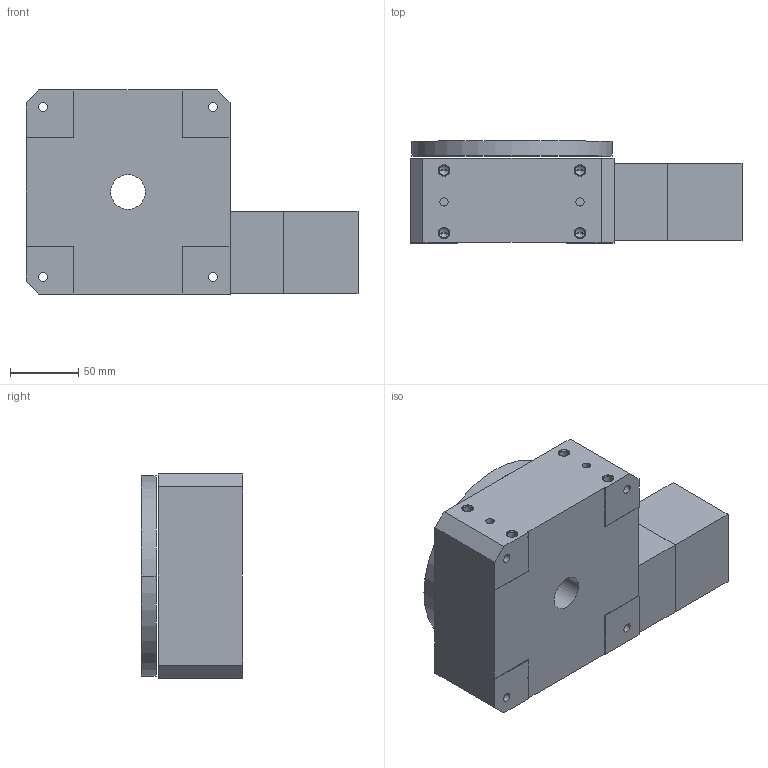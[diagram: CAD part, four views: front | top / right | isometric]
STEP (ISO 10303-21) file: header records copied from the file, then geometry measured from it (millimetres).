
FILE_DESCRIPTION((''),'2;1');
FILE_NAME('R150M7M16E0_ASM','2009-07-02T',('FK20128'),(''),'PRO/ENGINEER BY PARAMETRIC TECHNOLOGY CORPORATION, 2006200','PRO/ENGINEER BY PARAMETRIC TECHNOLOGY CORPORATION, 2006200','');
FILE_SCHEMA(('CONFIG_CONTROL_DESIGN'));
Length unit declared in the file: millimetre
Products named in the file (3): R150M; R150M-M16; R150M7M16E0_ASM
Assembly tree (2 placements, depth 2):
  R150M7M16E0_ASM
    R150M
    R150M-M16
Bounding box: 244.12 x 74.83 x 150 mm (x, y, z)
Volume: 1811109 mm3; surface area: 172927.9 mm2
Topology: 3 solids, 23 shells, 238 faces, 585 edges, 380 vertices
Faces by surface type: cylinder 132, plane 72, cone 34
Entity records: 7135 total; most frequent: DIRECTION 1369, CARTESIAN_POINT 1188, ORIENTED_EDGE 1042, AXIS2_PLACEMENT_3D 561, EDGE_CURVE 561, VERTEX_POINT 380, EDGE_LOOP 319, CIRCLE 314
